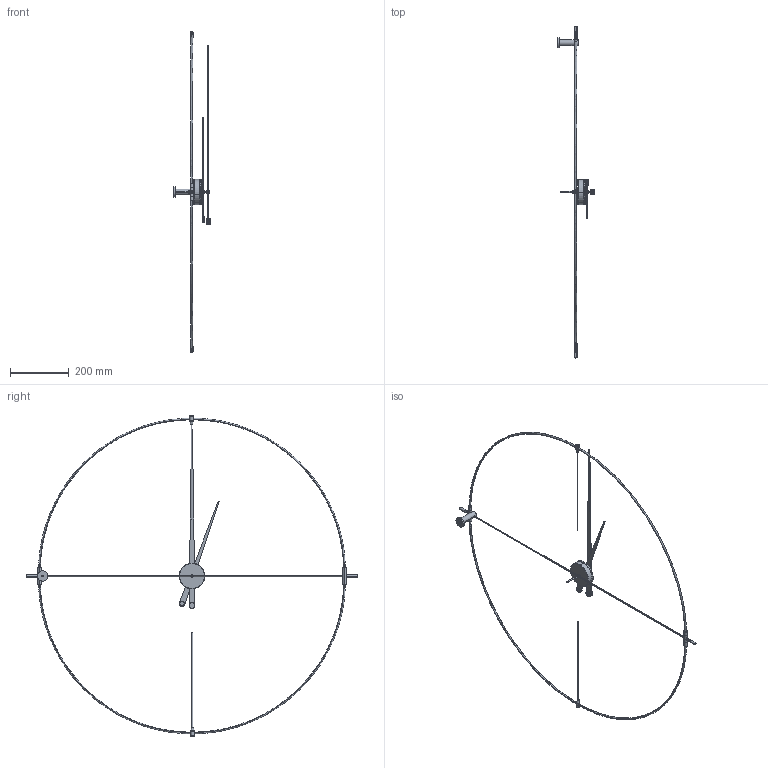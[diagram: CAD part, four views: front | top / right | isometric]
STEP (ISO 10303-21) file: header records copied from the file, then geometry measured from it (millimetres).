
FILE_DESCRIPTION (( 'STEP AP214' ), '1' );
FILE_NAME ('BILBAO_L.STEP', '2016-09-08T09:16:49', ( '' ), ( '' ), 'SwSTEP 2.0', 'SolidWorks 2013', '' );
FILE_SCHEMA (( 'AUTOMOTIVE_DESIGN' ));
Length unit declared in the file: millimetre
Products named in the file (31): Cierre_contrapeso; Casquillo_varilla_Bilbao; tuerca_7.3_1.5; Enlace_fibras_Bilbao; Arandela_2; Anclaje_pared_Bilbao; Agujas_minutera_lacada_100; Pieza_caja_inferior; Casquillo_enlaze_fibras; Tuerca 1.5; Caja_acero_inox; Contrapeso grande; Pieza_caja_superior; BILBAO_L; Casquillo_señal_horaria_Bilbao; Inserto horaria; Contrapeso_pequeño; aguja_horaria_lacada_100; Mecanismo; Ecler; Varilla_acero_Bilbao; aguja_minutera_lacada_100; Esparrago; Tornillo; Apoyo_pared_Bilbao; Pieza2; Embellecedor; Señal horaria_Bilbao; Soporte_Anclaje_pared_Bilbao; Agujas_horaria_lacada_100; Aro_105_Bilbao
Assembly tree (38 placements, depth 3):
  BILBAO_L
    Enlace_fibras_Bilbao  x2
    Casquillo_enlaze_fibras  x2
    Aro_105_Bilbao  x2
    Varilla_acero_Bilbao
    Casquillo_varilla_Bilbao  x2
    Señal horaria_Bilbao  x2
    Anclaje_pared_Bilbao
    Soporte_Anclaje_pared_Bilbao
    Caja_acero_inox
      Pieza_caja_inferior
      Pieza_caja_superior
      Mecanismo
      Pieza2
    Apoyo_pared_Bilbao
    Ecler
    Tornillo
    Casquillo_señal_horaria_Bilbao  x2
    Agujas_horaria_lacada_100
      aguja_horaria_lacada_100
      tuerca_7.3_1.5
      Arandela_2
      Inserto horaria
      Contrapeso_pequeño
      Cierre_contrapeso
    Agujas_minutera_lacada_100
      aguja_minutera_lacada_100
      Contrapeso_pequeño
      Embellecedor
      Arandela_2
      Esparrago
      Tuerca 1.5
      Contrapeso grande
Bounding box: 123.1 x 1132 x 1094 mm (x, y, z)
Volume: 252465.7 mm3; surface area: 197693.8 mm2
Topology: 35 solids, 35 shells, 404 faces, 824 edges, 516 vertices
Faces by surface type: cylinder 203, plane 131, torus 36, cone 30, bspline 4
Entity records: 10820 total; most frequent: CARTESIAN_POINT 2328, DIRECTION 1726, ORIENTED_EDGE 1328, AXIS2_PLACEMENT_3D 730, EDGE_CURVE 664, VERTEX_POINT 416, EDGE_LOOP 386, CIRCLE 365
